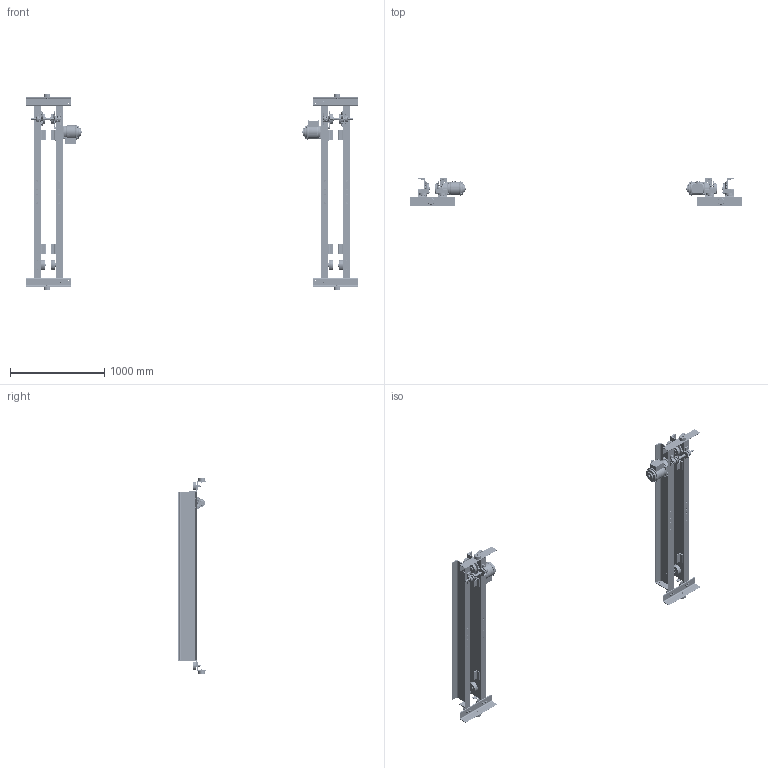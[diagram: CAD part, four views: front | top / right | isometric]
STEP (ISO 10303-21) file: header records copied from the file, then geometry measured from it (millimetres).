
FILE_DESCRIPTION (( 'STEP AP214' ), '1' );
FILE_NAME ('UMH-3-0250.STEP', '2026-08-11T15:49:14', ( '' ), ( '' ), 'SwSTEP 2.0', 'SolidWorks 2026', '' );
FILE_SCHEMA (( 'AUTOMOTIVE_DESIGN' ));
Length unit declared in the file: inch
Products named in the file (79): MC08-018.7_70; 6234501; 9798526_9798526; 6232304; 9047262_B27.7M - 3BM1-62; G1JE025S9310; G1JE040T9503; 9093354_9093354; 62367_6236714U; 9047125_B27.7M - 3AM1-23; 5204405_5204405; 9012709_Rectangular section spring washer BS 4464 - 16 (Type B); 6232301; 9012712_9012712; UMH-3-0250; 62371_6237114U; G1JE025S9303; 6234702X_6234702B; 9093101_9093101; G1JE025S9707; N6QO310E9108_N6QO3101108 DOMESTIC; 62368_6236814U; 9043411; 9012515_9012515; 6233203; N6QL210115; G1JE025S9301; G1JE025S9401; G1JE025S9701; 9000605; G1JE025S9604; G1CM040T_ROTATED 180 DEGREES; 6232803_6232803; 9012519_9012519; 6257004; 9093329_9093329; 6234701X_6234701B; 62366_6236614U; G1JE040S9609; 62369_6236914U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
Assembly tree (375 placements, depth 4):
  UMH-3-0250
    62370_6237014U  x2
      62367_6236714U
        MC08-018.7_70
        6232803_6232803
        6232803_6232803
      6232301
      6232304
      5204405_5204405
      6233203
    62369_6236914U
      62366_6236614U
        MC08-018.7_70
        6232803_6232803
        6232803_6232803
      6232301  x2
      6232304  x2
      5204405_5204405  x2
      6233203  x2
      6257004
    62371_6237114U
      62368_6236814U
        MC08-018.7_70
        6232803_6232803
        6232803_6232803
      6232301  x2
      6232304  x2
      5204405_5204405  x2
      6233203  x2
      6257004
    6234701X_6234701B  x2
    6234702X_6234702B  x2
    N6QL210207  x4
    9012514_9012514  x12
    9093101_9093101  x4
    9093424_9093424  x8
    N6QO3101108_N6QO3101108  x8
      N6QO310E9108_N6QO3101108 DOMESTIC
      9047252_9047252
      9000605
    6232404  x8
    9047125_B27.7M - 3AM1-23  x8
    9012515_9012515  x16
    9093433_9093433  x32
    9093146_9093146  x8
    6234501  x4
      6232601_6232601
      9000606
      9047262_B27.7M - 3BM1-62
    6232401  x8
    9047130_9047130  x8
    N6QL5101101  x4
      N6QL510E9101_Domestic
      9000606
      9047262_B27.7M - 3BM1-62
    N6QL210116  x4
    9012712_9012712  x8
    9043411  x8
    9093354_9093354  x8
    9093427_9093427  x8
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Bounding box: 3519.98 x 292.1 x 2084.61 mm (x, y, z)
Volume: 42490257.3 mm3; surface area: 8770265.7 mm2
Topology: 402 solids, 498 shells, 25490 faces, 65786 edges, 42456 vertices
Faces by surface type: plane 12524, cylinder 5716, bspline 3554, cone 2646, torus 852, sphere 198
Entity records: 206399 total; most frequent: CARTESIAN_POINT 83742, ORIENTED_EDGE 24902, DIRECTION 22702, EDGE_CURVE 12455, AXIS2_PLACEMENT_3D 8723, VERTEX_POINT 7967, EDGE_LOOP 5332, VECTOR 5256
